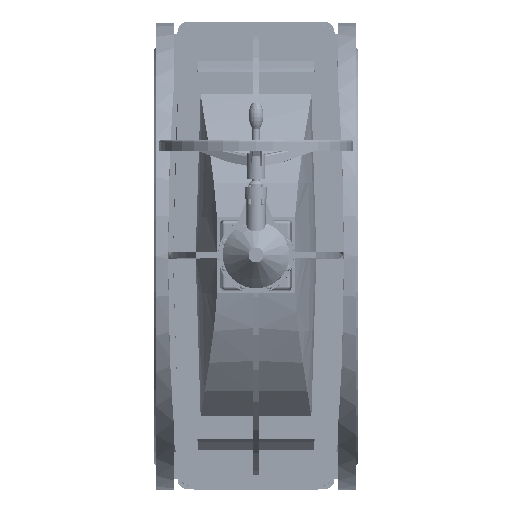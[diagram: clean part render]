
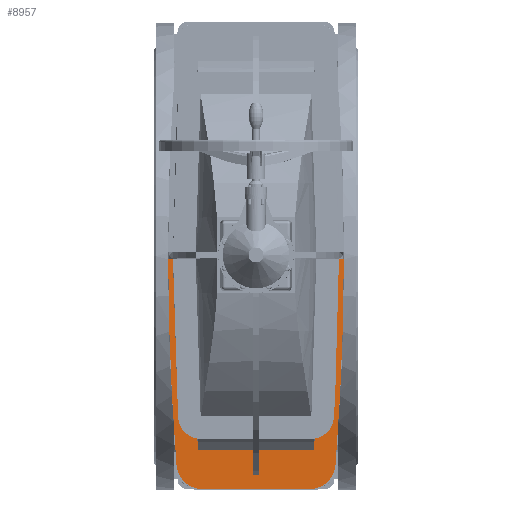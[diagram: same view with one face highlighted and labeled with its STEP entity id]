
A CAD part, top view. The second image highlights one B-rep face of the part: STEP entity #8957.
In plain terms, the highlighted planar face has unit normal (0, 0, 1).
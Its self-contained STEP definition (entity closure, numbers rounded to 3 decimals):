
#8957=ADVANCED_FACE('',(#17172),#17174,.T.);
#17172=FACE_BOUND('',#17173,.T.);
#17173=EDGE_LOOP('',(#30491,#30492,#30493,#30494,#30495,#30496,#30497,#30498,#30499,
#30500,#30501,#30502,#30503,#30504,#30505,#30506));
#17174=PLANE('',#17175);
#17175=AXIS2_PLACEMENT_3D('',#17176,#17177,#17178);
#17176=CARTESIAN_POINT('',(0.,0.,166.667));
#17177=DIRECTION('',(0.,0.,1.));
#17178=DIRECTION('',(0.,-1.,0.));
#30491=ORIENTED_EDGE('',*,*,#36111,.F.);
#30492=ORIENTED_EDGE('',*,*,#36130,.F.);
#30493=ORIENTED_EDGE('',*,*,#36174,.T.);
#30494=ORIENTED_EDGE('',*,*,#36175,.T.);
#30495=ORIENTED_EDGE('',*,*,#36176,.T.);
#30496=ORIENTED_EDGE('',*,*,#36177,.T.);
#30497=ORIENTED_EDGE('',*,*,#36178,.T.);
#30498=ORIENTED_EDGE('',*,*,#36077,.F.);
#30499=ORIENTED_EDGE('',*,*,#36029,.F.);
#30500=ORIENTED_EDGE('',*,*,#36093,.T.);
#30501=ORIENTED_EDGE('',*,*,#36098,.T.);
#30502=ORIENTED_EDGE('',*,*,#36019,.F.);
#30503=ORIENTED_EDGE('',*,*,#36179,.F.);
#30504=ORIENTED_EDGE('',*,*,#36003,.F.);
#30505=ORIENTED_EDGE('',*,*,#36104,.T.);
#30506=ORIENTED_EDGE('',*,*,#36121,.T.);
#36003=EDGE_CURVE('',#40920,#40922,#40923,.T.);
#36019=EDGE_CURVE('',#40952,#40954,#40955,.T.);
#36029=EDGE_CURVE('',#40972,#40974,#40975,.T.);
#36077=EDGE_CURVE('',#40974,#41063,#41064,.T.);
#36093=EDGE_CURVE('',#40972,#41088,#41090,.F.);
#36098=EDGE_CURVE('',#41088,#40954,#41095,.T.);
#36104=EDGE_CURVE('',#40920,#41103,#41105,.T.);
#36111=EDGE_CURVE('',#41117,#41119,#41120,.F.);
#36121=EDGE_CURVE('',#41103,#41119,#41134,.T.);
#36130=EDGE_CURVE('',#41148,#41117,#41150,.T.);
#36174=EDGE_CURVE('',#41148,#41217,#41218,.T.);
#36175=EDGE_CURVE('',#41217,#41219,#41220,.T.);
#36176=EDGE_CURVE('',#41219,#41221,#41222,.T.);
#36177=EDGE_CURVE('',#41221,#41223,#41224,.T.);
#36178=EDGE_CURVE('',#41223,#41063,#41225,.T.);
#36179=EDGE_CURVE('',#40922,#40952,#41226,.T.);
#40920=VERTEX_POINT('',#58184);
#40922=VERTEX_POINT('',#58189);
#40923=LINE('',#58190,#58191);
#40952=VERTEX_POINT('',#58253);
#40954=VERTEX_POINT('',#58257);
#40955=LINE('',#58258,#58259);
#40972=VERTEX_POINT('',#58297);
#40974=VERTEX_POINT('',#58301);
#40975=LINE('',#58302,#58303);
#41063=VERTEX_POINT('',#58646);
#41064=LINE('',#58647,#58648);
#41088=VERTEX_POINT('',#58798);
#41090=CIRCLE('',#58835,7038.544);
#41095=LINE('',#58852,#58853);
#41103=VERTEX_POINT('',#58910);
#41105=LINE('',#58947,#58948);
#41117=VERTEX_POINT('',#58973);
#41119=VERTEX_POINT('',#58978);
#41120=LINE('',#58979,#58980);
#41134=CIRCLE('',#59071,7038.544);
#41148=VERTEX_POINT('',#59103);
#41150=LINE('',#59107,#59108);
#41217=VERTEX_POINT('',#59255);
#41218=CIRCLE('',#59256,7099.378);
#41219=VERTEX_POINT('',#59260);
#41220=CIRCLE('',#59261,69.167);
#41221=VERTEX_POINT('',#59265);
#41222=LINE('',#59266,#59267);
#41223=VERTEX_POINT('',#59269);
#41224=CIRCLE('',#59270,69.167);
#41225=CIRCLE('',#59274,7099.378);
#41226=LINE('',#59278,#59279);
#58184=CARTESIAN_POINT('',(-523.609,8.333,166.667));
#58189=CARTESIAN_POINT('',(-589.445,8.333,166.667));
#58190=CARTESIAN_POINT('',(-523.609,8.333,166.667));
#58191=VECTOR('',#58192,1.);
#58192=DIRECTION('',(-1.,0.,0.));
#58253=CARTESIAN_POINT('',(-589.445,-8.333,166.667));
#58257=CARTESIAN_POINT('',(-523.609,-8.333,166.667));
#58258=CARTESIAN_POINT('',(-589.445,-8.333,166.667));
#58259=VECTOR('',#58260,1.);
#58260=DIRECTION('',(1.,0.,0.));
#58297=CARTESIAN_POINT('',(0.,-175.168,166.667));
#58301=CARTESIAN_POINT('',(-8.333,-175.168,166.667));
#58302=CARTESIAN_POINT('',(0.,-175.168,166.667));
#58303=VECTOR('',#58304,1.);
#58304=DIRECTION('',(-1.,0.,0.));
#58646=CARTESIAN_POINT('',(-8.333,-235.996,166.667));
#58647=CARTESIAN_POINT('',(-8.333,-175.168,166.667));
#58648=VECTOR('',#58649,1.);
#58649=DIRECTION('',(0.,-1.,0.));
#58798=CARTESIAN_POINT('',(-523.609,-155.665,166.667));
#58835=AXIS2_PLACEMENT_3D('',#58836,#58837,#58838);
#58836=CARTESIAN_POINT('',(0.,6863.376,166.667));
#58837=DIRECTION('',(0.,0.,1.));
#58838=DIRECTION('',(-0.074,-0.997,0.));
#58852=CARTESIAN_POINT('',(-523.609,-155.665,166.667));
#58853=VECTOR('',#58854,1.);
#58854=DIRECTION('',(0.,1.,0.));
#58910=CARTESIAN_POINT('',(-523.609,155.665,166.667));
#58947=CARTESIAN_POINT('',(-523.609,8.333,166.667));
#58948=VECTOR('',#58949,1.);
#58949=DIRECTION('',(0.,1.,0.));
#58973=CARTESIAN_POINT('',(-8.333,175.168,166.667));
#58978=CARTESIAN_POINT('',(0.,175.168,166.667));
#58979=CARTESIAN_POINT('',(0.,175.168,166.667));
#58980=VECTOR('',#58981,1.);
#58981=DIRECTION('',(-1.,0.,0.));
#59071=AXIS2_PLACEMENT_3D('',#59072,#59073,#59074);
#59072=CARTESIAN_POINT('',(0.,-6863.376,166.667));
#59073=DIRECTION('',(0.,0.,-1.));
#59074=DIRECTION('',(-0.074,0.997,0.));
#59103=CARTESIAN_POINT('',(-8.333,235.996,166.667));
#59107=CARTESIAN_POINT('',(-8.333,235.996,166.667));
#59108=VECTOR('',#59109,1.);
#59109=DIRECTION('',(0.,-1.,0.));
#59255=CARTESIAN_POINT('',(-563.826,213.577,166.667));
#59256=AXIS2_PLACEMENT_3D('',#59257,#59258,#59259);
#59257=CARTESIAN_POINT('',(0.,-6863.376,166.667));
#59258=DIRECTION('',(0.,0.,1.));
#59259=DIRECTION('',(-0.001,1.,0.));
#59260=CARTESIAN_POINT('',(-627.5,144.628,166.667));
#59261=AXIS2_PLACEMENT_3D('',#59262,#59263,#59264);
#59262=CARTESIAN_POINT('',(-558.333,144.628,166.667));
#59263=DIRECTION('',(0.,0.,1.));
#59264=DIRECTION('',(-0.079,0.997,0.));
#59265=CARTESIAN_POINT('',(-627.5,-144.628,166.667));
#59266=CARTESIAN_POINT('',(-627.5,144.628,166.667));
#59267=VECTOR('',#59268,1.);
#59268=DIRECTION('',(0.,-1.,0.));
#59269=CARTESIAN_POINT('',(-563.826,-213.577,166.667));
#59270=AXIS2_PLACEMENT_3D('',#59271,#59272,#59273);
#59271=CARTESIAN_POINT('',(-558.333,-144.628,166.667));
#59272=DIRECTION('',(0.,0.,1.));
#59273=DIRECTION('',(-1.,0.,0.));
#59274=AXIS2_PLACEMENT_3D('',#59275,#59276,#59277);
#59275=CARTESIAN_POINT('',(0.,6863.376,166.667));
#59276=DIRECTION('',(0.,0.,1.));
#59277=DIRECTION('',(-0.079,-0.997,0.));
#59278=CARTESIAN_POINT('',(-589.445,8.333,166.667));
#59279=VECTOR('',#59280,1.);
#59280=DIRECTION('',(0.,-1.,0.));
